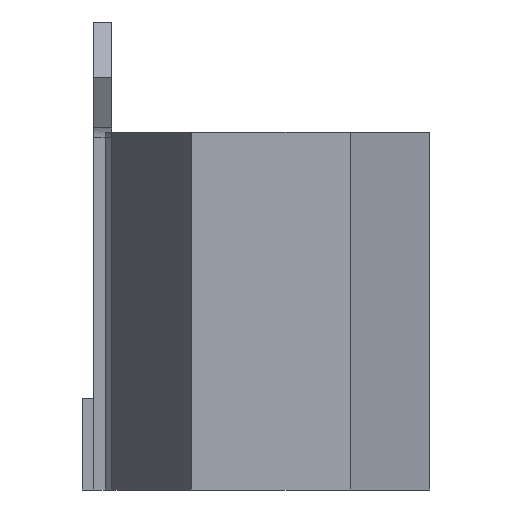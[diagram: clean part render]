
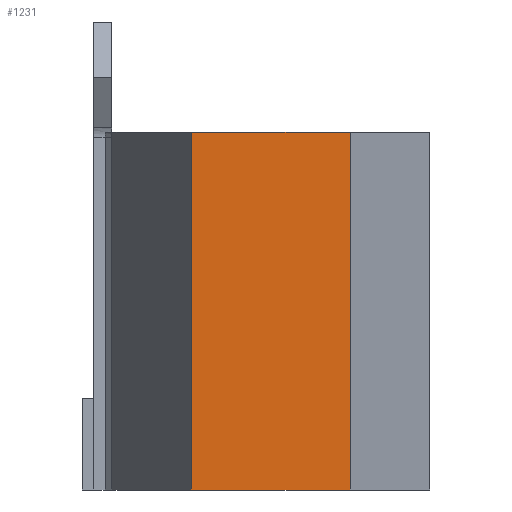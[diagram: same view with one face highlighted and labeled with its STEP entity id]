
A CAD part, left-side view. The second image highlights one B-rep face of the part: STEP entity #1231.
In plain terms, the highlighted planar face has unit normal (-1, 0, 0).
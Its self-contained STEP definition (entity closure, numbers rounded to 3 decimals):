
#73=PLANE('',#1330);
#138=FACE_OUTER_BOUND('',#208,.T.);
#208=EDGE_LOOP('',(#1092,#1093,#1094,#1095));
#277=LINE('',#1803,#427);
#329=LINE('',#1929,#479);
#351=LINE('',#1971,#501);
#352=LINE('',#1973,#502);
#427=VECTOR('',#1457,10.);
#479=VECTOR('',#1551,10.);
#501=VECTOR('',#1613,10.);
#502=VECTOR('',#1616,10.);
#595=VERTEX_POINT('',#1800);
#596=VERTEX_POINT('',#1802);
#648=VERTEX_POINT('',#1926);
#649=VERTEX_POINT('',#1928);
#725=EDGE_CURVE('',#596,#595,#277,.T.);
#787=EDGE_CURVE('',#648,#649,#329,.T.);
#809=EDGE_CURVE('',#595,#649,#351,.T.);
#810=EDGE_CURVE('',#596,#648,#352,.T.);
#1092=ORIENTED_EDGE('',*,*,#725,.T.);
#1093=ORIENTED_EDGE('',*,*,#809,.T.);
#1094=ORIENTED_EDGE('',*,*,#787,.F.);
#1095=ORIENTED_EDGE('',*,*,#810,.F.);
#1231=ADVANCED_FACE('',(#138),#73,.T.);
#1330=AXIS2_PLACEMENT_3D('',#1972,#1614,#1615);
#1457=DIRECTION('',(0.,1.,0.));
#1551=DIRECTION('',(0.,1.,0.));
#1613=DIRECTION('',(0.,0.,-1.));
#1614=DIRECTION('center_axis',(-1.,0.,0.));
#1615=DIRECTION('ref_axis',(0.,1.,0.));
#1616=DIRECTION('',(0.,0.,-1.));
#1800=CARTESIAN_POINT('',(-37.847,-5.054,-114.069));
#1802=CARTESIAN_POINT('',(-37.847,-39.695,-114.069));
#1803=CARTESIAN_POINT('',(-37.847,-39.695,-114.069));
#1926=CARTESIAN_POINT('',(-37.847,-39.695,-192.069));
#1928=CARTESIAN_POINT('',(-37.847,-5.054,-192.069));
#1929=CARTESIAN_POINT('',(-37.847,-39.695,-192.069));
#1971=CARTESIAN_POINT('',(-37.847,-5.054,-114.069));
#1972=CARTESIAN_POINT('Origin',(-37.847,-39.695,-114.069));
#1973=CARTESIAN_POINT('',(-37.847,-39.695,-114.069));
